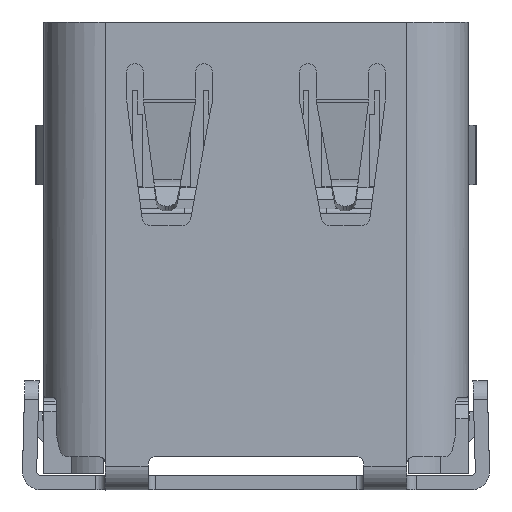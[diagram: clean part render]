
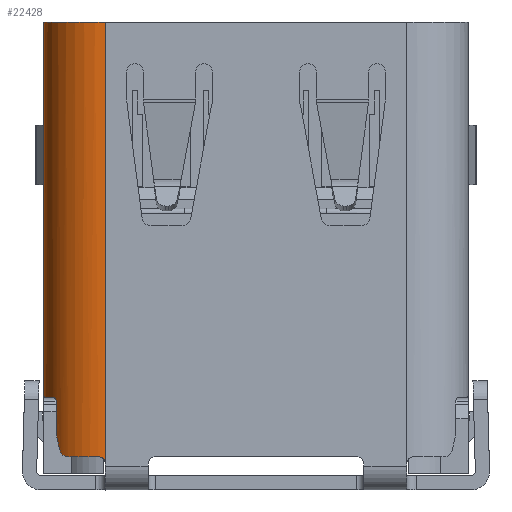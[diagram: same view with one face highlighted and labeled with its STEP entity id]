
A CAD part, front view. The second image highlights one B-rep face of the part: STEP entity #22428.
In plain terms, the highlighted cylindrical face has radius 1.3 mm (diameter 2.6 mm), a partial arc.
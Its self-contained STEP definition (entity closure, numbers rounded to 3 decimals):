
#1159=DIRECTION('',(0.,0.,-1.));
#1160=VECTOR('',#1159,9.32);
#1161=CARTESIAN_POINT('',(34.621,-0.687,
20.339));
#1162=LINE('',#1161,#1160);
#1163=CARTESIAN_POINT('',(34.621,-0.687,
11.019));
#1164=CARTESIAN_POINT('',(34.621,-0.687,
11.035));
#1165=CARTESIAN_POINT('',(34.616,-0.687,
11.066));
#1166=CARTESIAN_POINT('',(34.594,-0.687,
11.109));
#1167=CARTESIAN_POINT('',(34.561,-0.686,
11.142));
#1168=CARTESIAN_POINT('',(34.519,-0.683,
11.164));
#1169=CARTESIAN_POINT('',(34.488,-0.68,
11.169));
#1170=CARTESIAN_POINT('',(34.471,-0.678,
11.169));
#1172=DIRECTION('',(0.,0.,1.));
#1173=VECTOR('',#1172,0.665);
#1174=CARTESIAN_POINT('',(33.596,-0.187,
11.614));
#1175=LINE('',#1174,#1173);
#1176=CARTESIAN_POINT('',(33.596,-0.187,
12.279));
#1177=CARTESIAN_POINT('',(33.596,-0.187,
12.295));
#1178=CARTESIAN_POINT('',(33.593,-0.183,
12.326));
#1179=CARTESIAN_POINT('',(33.58,-0.166,
12.369));
#1180=CARTESIAN_POINT('',(33.56,-0.139,
12.402));
#1181=CARTESIAN_POINT('',(33.536,-0.103,
12.424));
#1182=CARTESIAN_POINT('',(33.52,-0.077,
12.429));
#1183=CARTESIAN_POINT('',(33.511,-0.063,
12.429));
#1185=DIRECTION('',(0.,0.,1.));
#1186=VECTOR('',#1185,7.872);
#1187=CARTESIAN_POINT('',(33.321,0.613,12.467));
#1188=LINE('',#1187,#1186);
#1203=CARTESIAN_POINT('',(34.621,0.613,20.339));
#1204=DIRECTION('',(0.,0.,-1.));
#1205=DIRECTION('',(0.,-1.,0.));
#1206=AXIS2_PLACEMENT_3D('',#1203,#1204,#1205);
#3184=CARTESIAN_POINT('',(34.621,0.613,11.169));
#3185=DIRECTION('',(0.,0.,1.));
#3186=DIRECTION('',(-0.61,-0.792,0.));
#3187=AXIS2_PLACEMENT_3D('',#3184,#3185,#3186);
#3210=CARTESIAN_POINT('',(33.654,-0.255,
11.331));
#3211=CARTESIAN_POINT('',(33.659,-0.26,
11.312));
#3212=CARTESIAN_POINT('',(33.671,-0.274,
11.276));
#3213=CARTESIAN_POINT('',(33.699,-0.304,
11.231));
#3214=CARTESIAN_POINT('',(33.737,-0.34,
11.195));
#3215=CARTESIAN_POINT('',(33.779,-0.378,
11.174));
#3216=CARTESIAN_POINT('',(33.811,-0.404,
11.169));
#3217=CARTESIAN_POINT('',(33.828,-0.416,
11.169));
#3219=CARTESIAN_POINT('',(33.606,-0.199,
11.527));
#3220=CARTESIAN_POINT('',(33.622,-0.218,
11.462));
#3221=CARTESIAN_POINT('',(33.637,-0.237,
11.396));
#3222=CARTESIAN_POINT('',(33.654,-0.255,
11.331));
#3239=CARTESIAN_POINT('',(33.596,-0.187,
11.614));
#3240=CARTESIAN_POINT('',(33.596,-0.187,
11.604));
#3241=CARTESIAN_POINT('',(33.597,-0.188,
11.585));
#3242=CARTESIAN_POINT('',(33.601,-0.192,
11.555));
#3243=CARTESIAN_POINT('',(33.604,-0.196,
11.536));
#3244=CARTESIAN_POINT('',(33.606,-0.199,
11.527));
#3259=CARTESIAN_POINT('',(34.621,0.613,12.429));
#3260=DIRECTION('',(0.,0.,1.));
#3261=DIRECTION('',(-0.987,-0.162,0.));
#3262=AXIS2_PLACEMENT_3D('',#3259,#3260,#3261);
#3264=CARTESIAN_POINT('',(33.325,0.514,12.463));
#3265=CARTESIAN_POINT('',(33.326,0.503,12.456));
#3266=CARTESIAN_POINT('',(33.328,0.48,12.443));
#3267=CARTESIAN_POINT('',(33.332,0.442,12.432));
#3268=CARTESIAN_POINT('',(33.336,0.416,12.429));
#3269=CARTESIAN_POINT('',(33.338,0.403,12.429));
#3275=CARTESIAN_POINT('',(33.322,0.567,12.479));
#3276=CARTESIAN_POINT('',(33.322,0.561,12.479));
#3277=CARTESIAN_POINT('',(33.323,0.549,12.478));
#3278=CARTESIAN_POINT('',(33.324,0.53,12.472));
#3279=CARTESIAN_POINT('',(33.325,0.519,12.466));
#3280=CARTESIAN_POINT('',(33.325,0.514,12.463));
#3290=CARTESIAN_POINT('',(33.321,0.613,12.467));
#3291=CARTESIAN_POINT('',(33.321,0.609,12.47));
#3292=CARTESIAN_POINT('',(33.321,0.599,12.474));
#3293=CARTESIAN_POINT('',(33.321,0.583,12.478));
#3294=CARTESIAN_POINT('',(33.322,0.573,12.479));
#3295=CARTESIAN_POINT('',(33.322,0.567,12.479));
#16592=CARTESIAN_POINT('',(34.621,-0.687,
20.339));
#16593=VERTEX_POINT('',#16592);
#16594=CARTESIAN_POINT('',(33.321,0.613,
20.339));
#16595=VERTEX_POINT('',#16594);
#16869=CARTESIAN_POINT('',(34.621,-0.687,
11.019));
#16870=VERTEX_POINT('',#16869);
#16876=CARTESIAN_POINT('',(34.471,-0.678,
11.169));
#16878=VERTEX_POINT('',#16876);
#16881=CARTESIAN_POINT('',(33.828,-0.416,
11.169));
#16882=VERTEX_POINT('',#16881);
#17063=CARTESIAN_POINT('',(33.321,0.613,
12.467));
#17064=VERTEX_POINT('',#17063);
#17211=VERTEX_POINT('',#3295);
#17212=VERTEX_POINT('',#3210);
#17213=VERTEX_POINT('',#3219);
#17214=VERTEX_POINT('',#3239);
#17215=CARTESIAN_POINT('',(33.596,-0.187,
12.279));
#17216=VERTEX_POINT('',#17215);
#17217=VERTEX_POINT('',#1183);
#17218=CARTESIAN_POINT('',(33.338,0.403,
12.429));
#17219=VERTEX_POINT('',#17218);
#17220=VERTEX_POINT('',#3264);
#22394=CARTESIAN_POINT('',(34.621,0.613,
10.853));
#22395=DIRECTION('',(0.,0.,1.));
#22396=DIRECTION('',(-1.,0.,0.));
#22397=AXIS2_PLACEMENT_3D('',#22394,#22395,#22396);
#22398=CYLINDRICAL_SURFACE('',#22397,1.3);
#22400=ORIENTED_EDGE('',*,*,#22399,.F.);
#22401=ORIENTED_EDGE('',*,*,#22294,.T.);
#22403=ORIENTED_EDGE('',*,*,#22402,.T.);
#22405=ORIENTED_EDGE('',*,*,#22404,.F.);
#22407=ORIENTED_EDGE('',*,*,#22406,.F.);
#22409=ORIENTED_EDGE('',*,*,#22408,.F.);
#22411=ORIENTED_EDGE('',*,*,#22410,.F.);
#22413=ORIENTED_EDGE('',*,*,#22412,.T.);
#22415=ORIENTED_EDGE('',*,*,#22414,.T.);
#22417=ORIENTED_EDGE('',*,*,#22416,.F.);
#22419=ORIENTED_EDGE('',*,*,#22418,.F.);
#22421=ORIENTED_EDGE('',*,*,#22420,.F.);
#22423=ORIENTED_EDGE('',*,*,#22422,.F.);
#22425=ORIENTED_EDGE('',*,*,#22424,.T.);
#22426=EDGE_LOOP('',(#22400,#22401,#22403,#22405,#22407,#22409,#22411,#22413,
#22415,#22417,#22419,#22421,#22423,#22425));
#22427=FACE_OUTER_BOUND('',#22426,.F.);
#1171=B_SPLINE_CURVE_WITH_KNOTS('',3,(#1163,#1164,#1165,#1166,#1167,#1168,#1169,
#1170),.UNSPECIFIED.,.F.,.F.,(4,1,1,1,1,4),(0.,0.2,0.4,0.6,0.8,1.),
.UNSPECIFIED.);
#1184=B_SPLINE_CURVE_WITH_KNOTS('',3,(#1176,#1177,#1178,#1179,#1180,#1181,#1182,
#1183),.UNSPECIFIED.,.F.,.F.,(4,1,1,1,1,4),(0.,0.2,0.4,0.6,0.8,1.),
.UNSPECIFIED.);
#1207=CIRCLE('',#1206,1.3);
#3188=CIRCLE('',#3187,1.3);
#3218=B_SPLINE_CURVE_WITH_KNOTS('',3,(#3210,#3211,#3212,#3213,#3214,#3215,#3216,
#3217),.UNSPECIFIED.,.F.,.F.,(4,1,1,1,1,4),(0.,0.2,0.4,0.6,0.8,1.),
.UNSPECIFIED.);
#3223=B_SPLINE_CURVE_WITH_KNOTS('',3,(#3219,#3220,#3221,#3222),.UNSPECIFIED.,
.F.,.F.,(4,4),(0.,1.),.UNSPECIFIED.);
#3245=B_SPLINE_CURVE_WITH_KNOTS('',3,(#3239,#3240,#3241,#3242,#3243,#3244),
.UNSPECIFIED.,.F.,.F.,(4,1,1,4),(0.,0.333,0.667,1.),
.UNSPECIFIED.);
#3263=CIRCLE('',#3262,1.3);
#3270=B_SPLINE_CURVE_WITH_KNOTS('',3,(#3264,#3265,#3266,#3267,#3268,#3269),
.UNSPECIFIED.,.F.,.F.,(4,1,1,4),(0.,0.333,0.667,1.),
.UNSPECIFIED.);
#3281=B_SPLINE_CURVE_WITH_KNOTS('',3,(#3275,#3276,#3277,#3278,#3279,#3280),
.UNSPECIFIED.,.F.,.F.,(4,1,1,4),(0.,0.333,0.667,1.),
.UNSPECIFIED.);
#3296=B_SPLINE_CURVE_WITH_KNOTS('',3,(#3290,#3291,#3292,#3293,#3294,#3295),
.UNSPECIFIED.,.F.,.F.,(4,1,1,4),(0.,0.333,0.667,1.),
.UNSPECIFIED.);
#22294=EDGE_CURVE('',#16593,#16870,#1162,.T.);
#22399=EDGE_CURVE('',#16593,#16595,#1207,.T.);
#22402=EDGE_CURVE('',#16870,#16878,#1171,.T.);
#22404=EDGE_CURVE('',#16882,#16878,#3188,.T.);
#22406=EDGE_CURVE('',#17212,#16882,#3218,.T.);
#22408=EDGE_CURVE('',#17213,#17212,#3223,.T.);
#22410=EDGE_CURVE('',#17214,#17213,#3245,.T.);
#22412=EDGE_CURVE('',#17214,#17216,#1175,.T.);
#22414=EDGE_CURVE('',#17216,#17217,#1184,.T.);
#22416=EDGE_CURVE('',#17219,#17217,#3263,.T.);
#22418=EDGE_CURVE('',#17220,#17219,#3270,.T.);
#22420=EDGE_CURVE('',#17211,#17220,#3281,.T.);
#22422=EDGE_CURVE('',#17064,#17211,#3296,.T.);
#22424=EDGE_CURVE('',#17064,#16595,#1188,.T.);
#22428=ADVANCED_FACE('',(#22427),#22398,.T.);
